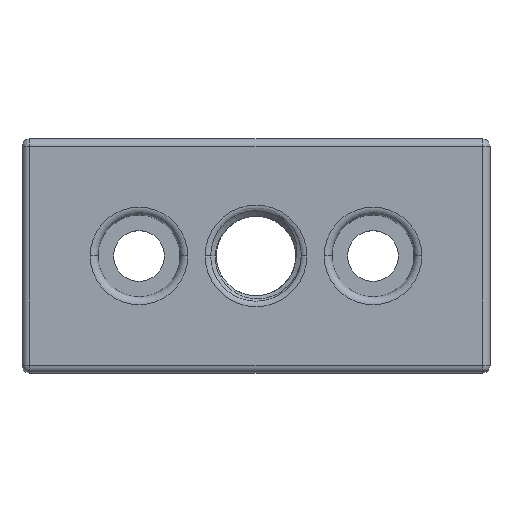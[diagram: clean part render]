
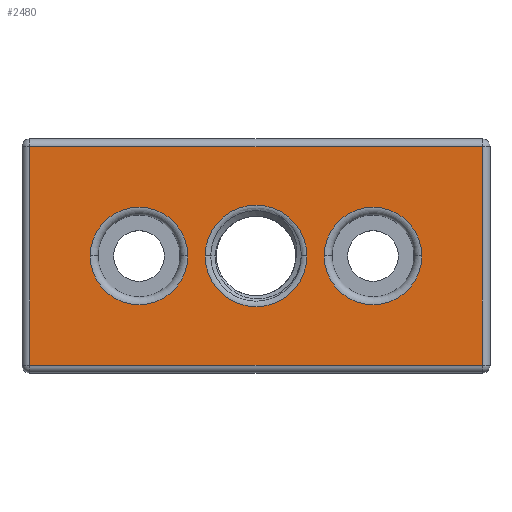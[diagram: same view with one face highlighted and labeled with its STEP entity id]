
A CAD part, top view. The second image highlights one B-rep face of the part: STEP entity #2480.
In plain terms, the highlighted planar face has unit normal (0, 0, 1).
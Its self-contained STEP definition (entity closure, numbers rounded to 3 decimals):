
#13 = VERTEX_POINT ( 'NONE', #2055 ) ;
#57 = CARTESIAN_POINT ( 'NONE',  ( -15., 0., 6. ) ) ;
#70 = CIRCLE ( 'NONE', #572, 6.25 ) ;
#112 = ORIENTED_EDGE ( 'NONE', *, *, #2717, .T. ) ;
#134 = CIRCLE ( 'NONE', #1572, 6.514 ) ;
#175 = DIRECTION ( 'NONE',  ( 1., 0., 0. ) ) ;
#185 = ORIENTED_EDGE ( 'NONE', *, *, #1669, .T. ) ;
#204 = VERTEX_POINT ( 'NONE', #487 ) ;
#213 = CIRCLE ( 'NONE', #1030, 6.25 ) ;
#237 = EDGE_LOOP ( 'NONE', ( #112, #1740, #314, #185 ) ) ;
#256 = ORIENTED_EDGE ( 'NONE', *, *, #1215, .T. ) ;
#262 = CARTESIAN_POINT ( 'NONE',  ( -29., -15., 6. ) ) ;
#291 = LINE ( 'NONE', #3038, #376 ) ;
#314 = ORIENTED_EDGE ( 'NONE', *, *, #1171, .T. ) ;
#327 = CIRCLE ( 'NONE', #2280, 6.25 ) ;
#376 = VECTOR ( 'NONE', #2718, 1000. ) ;
#427 = VERTEX_POINT ( 'NONE', #2531 ) ;
#472 = DIRECTION ( 'NONE',  ( 0., 0., 1. ) ) ;
#483 = ORIENTED_EDGE ( 'NONE', *, *, #1115, .T. ) ;
#487 = CARTESIAN_POINT ( 'NONE',  ( 8.75, 0., 6. ) ) ;
#526 = AXIS2_PLACEMENT_3D ( 'NONE', #57, #2471, #2164 ) ;
#552 = LINE ( 'NONE', #262, #1089 ) ;
#572 = AXIS2_PLACEMENT_3D ( 'NONE', #3044, #2725, #2407 ) ;
#652 = ORIENTED_EDGE ( 'NONE', *, *, #865, .T. ) ;
#674 = ORIENTED_EDGE ( 'NONE', *, *, #2852, .T. ) ;
#694 = EDGE_CURVE ( 'NONE', #2855, #427, #1714, .T. ) ;
#700 = ORIENTED_EDGE ( 'NONE', *, *, #1396, .T. ) ;
#734 = DIRECTION ( 'NONE',  ( 0., 1., 0. ) ) ;
#763 = EDGE_LOOP ( 'NONE', ( #652, #700 ) ) ;
#770 = CARTESIAN_POINT ( 'NONE',  ( 0., 0., 6. ) ) ;
#778 = VERTEX_POINT ( 'NONE', #1096 ) ;
#802 = FACE_BOUND ( 'NONE', #763, .T. ) ;
#865 = EDGE_CURVE ( 'NONE', #13, #204, #327, .T. ) ;
#964 = FACE_BOUND ( 'NONE', #1088, .T. ) ;
#992 = ORIENTED_EDGE ( 'NONE', *, *, #2655, .T. ) ;
#1030 = AXIS2_PLACEMENT_3D ( 'NONE', #2276, #1967, #1655 ) ;
#1058 = CARTESIAN_POINT ( 'NONE',  ( 29., 15., 6. ) ) ;
#1073 = DIRECTION ( 'NONE',  ( -1., 0., 0. ) ) ;
#1088 = EDGE_LOOP ( 'NONE', ( #483, #674 ) ) ;
#1089 = VECTOR ( 'NONE', #3008, 1000. ) ;
#1096 = CARTESIAN_POINT ( 'NONE',  ( -21.25, 0., 6. ) ) ;
#1097 = PLANE ( 'NONE',  #1929 ) ;
#1109 = AXIS2_PLACEMENT_3D ( 'NONE', #2462, #2154, #1841 ) ;
#1115 = EDGE_CURVE ( 'NONE', #2694, #778, #213, .T. ) ;
#1144 = VERTEX_POINT ( 'NONE', #1820 ) ;
#1151 = VERTEX_POINT ( 'NONE', #1507 ) ;
#1171 = EDGE_CURVE ( 'NONE', #427, #1144, #552, .T. ) ;
#1215 = EDGE_CURVE ( 'NONE', #2192, #2821, #134, .T. ) ;
#1390 = CARTESIAN_POINT ( 'NONE',  ( -30., 14., 6. ) ) ;
#1396 = EDGE_CURVE ( 'NONE', #204, #13, #70, .T. ) ;
#1507 = CARTESIAN_POINT ( 'NONE',  ( 29., -14., 6. ) ) ;
#1527 = DIRECTION ( 'NONE',  ( 1., 0., 0. ) ) ;
#1541 = CARTESIAN_POINT ( 'NONE',  ( 29., 14., 6. ) ) ;
#1572 = AXIS2_PLACEMENT_3D ( 'NONE', #2150, #1838, #1527 ) ;
#1612 = FACE_OUTER_BOUND ( 'NONE', #237, .T. ) ;
#1655 = DIRECTION ( 'NONE',  ( 1., 0., 0. ) ) ;
#1669 = EDGE_CURVE ( 'NONE', #1144, #1151, #291, .T. ) ;
#1699 = LINE ( 'NONE', #1058, #2225 ) ;
#1702 = CIRCLE ( 'NONE', #526, 6.25 ) ;
#1714 = LINE ( 'NONE', #1390, #2924 ) ;
#1740 = ORIENTED_EDGE ( 'NONE', *, *, #694, .T. ) ;
#1763 = CARTESIAN_POINT ( 'NONE',  ( 6.514, 0., 6. ) ) ;
#1773 = FACE_BOUND ( 'NONE', #1892, .T. ) ;
#1820 = CARTESIAN_POINT ( 'NONE',  ( -29., -14., 6. ) ) ;
#1838 = DIRECTION ( 'NONE',  ( 0., 0., -1. ) ) ;
#1841 = DIRECTION ( 'NONE',  ( 1., 0., 0. ) ) ;
#1892 = EDGE_LOOP ( 'NONE', ( #992, #256 ) ) ;
#1913 = DIRECTION ( 'NONE',  ( 1., 0., 0. ) ) ;
#1929 = AXIS2_PLACEMENT_3D ( 'NONE', #770, #472, #175 ) ;
#1967 = DIRECTION ( 'NONE',  ( 0., 0., -1. ) ) ;
#2055 = CARTESIAN_POINT ( 'NONE',  ( 21.25, 0., 6. ) ) ;
#2150 = CARTESIAN_POINT ( 'NONE',  ( 0., 0., 6. ) ) ;
#2154 = DIRECTION ( 'NONE',  ( 0., 0., -1. ) ) ;
#2164 = DIRECTION ( 'NONE',  ( 1., 0., 0. ) ) ;
#2182 = CIRCLE ( 'NONE', #1109, 6.514 ) ;
#2192 = VERTEX_POINT ( 'NONE', #2732 ) ;
#2225 = VECTOR ( 'NONE', #734, 1000. ) ;
#2229 = DIRECTION ( 'NONE',  ( 0., 0., -1. ) ) ;
#2276 = CARTESIAN_POINT ( 'NONE',  ( -15., 0., 6. ) ) ;
#2280 = AXIS2_PLACEMENT_3D ( 'NONE', #2532, #2229, #1913 ) ;
#2407 = DIRECTION ( 'NONE',  ( 1., 0., 0. ) ) ;
#2462 = CARTESIAN_POINT ( 'NONE',  ( 0., 0., 6. ) ) ;
#2471 = DIRECTION ( 'NONE',  ( 0., 0., -1. ) ) ;
#2480 = ADVANCED_FACE ( 'NONE', ( #802, #964, #1612, #1773 ), #1097, .T. ) ;
#2531 = CARTESIAN_POINT ( 'NONE',  ( -29., 14., 6. ) ) ;
#2532 = CARTESIAN_POINT ( 'NONE',  ( 15., 0., 6. ) ) ;
#2655 = EDGE_CURVE ( 'NONE', #2821, #2192, #2182, .T. ) ;
#2694 = VERTEX_POINT ( 'NONE', #2963 ) ;
#2717 = EDGE_CURVE ( 'NONE', #1151, #2855, #1699, .T. ) ;
#2718 = DIRECTION ( 'NONE',  ( 1., 0., 0. ) ) ;
#2725 = DIRECTION ( 'NONE',  ( 0., 0., -1. ) ) ;
#2732 = CARTESIAN_POINT ( 'NONE',  ( -6.514, 0., 6. ) ) ;
#2821 = VERTEX_POINT ( 'NONE', #1763 ) ;
#2852 = EDGE_CURVE ( 'NONE', #778, #2694, #1702, .T. ) ;
#2855 = VERTEX_POINT ( 'NONE', #1541 ) ;
#2924 = VECTOR ( 'NONE', #1073, 1000. ) ;
#2963 = CARTESIAN_POINT ( 'NONE',  ( -8.75, 0., 6. ) ) ;
#3008 = DIRECTION ( 'NONE',  ( 0., -1., 0. ) ) ;
#3038 = CARTESIAN_POINT ( 'NONE',  ( 30., -14., 6. ) ) ;
#3044 = CARTESIAN_POINT ( 'NONE',  ( 15., 0., 6. ) ) ;
